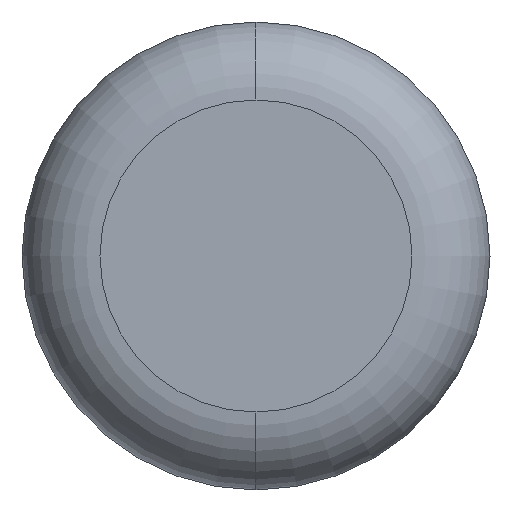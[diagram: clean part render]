
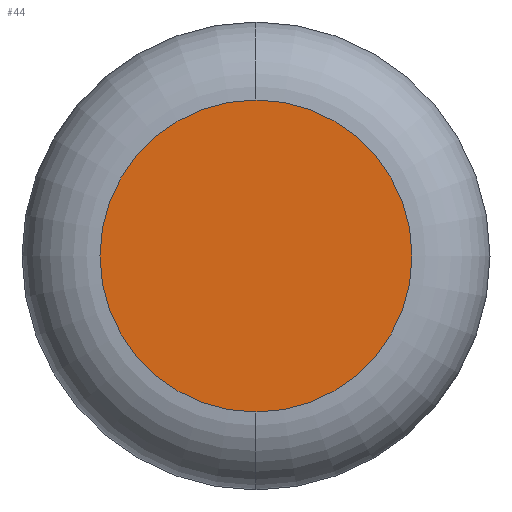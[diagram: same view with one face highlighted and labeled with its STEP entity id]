
A CAD part, left-side view. The second image highlights one B-rep face of the part: STEP entity #44.
In plain terms, the highlighted planar face has unit normal (-1, 0, 0).
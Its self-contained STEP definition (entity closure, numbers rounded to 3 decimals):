
#3 = AXIS2_PLACEMENT_3D ( 'NONE', #92, #206, #72 ) ;
#22 = DIRECTION ( 'NONE',  ( -1., 0., 0. ) ) ;
#27 = CARTESIAN_POINT ( 'NONE',  ( 0., 0., -1. ) ) ;
#35 = VERTEX_POINT ( 'NONE', #27 ) ;
#44 = ADVANCED_FACE ( 'NONE', ( #99 ), #189, .F. ) ;
#60 = DIRECTION ( 'NONE',  ( 0., 0., -1. ) ) ;
#72 = DIRECTION ( 'NONE',  ( 0., 0., -1. ) ) ;
#79 = EDGE_CURVE ( 'NONE', #35, #168, #229, .T. ) ;
#81 = CIRCLE ( 'NONE', #3, 1. ) ;
#86 = AXIS2_PLACEMENT_3D ( 'NONE', #151, #22, #128 ) ;
#92 = CARTESIAN_POINT ( 'NONE',  ( 0., 0., 0. ) ) ;
#96 = DIRECTION ( 'NONE',  ( 1., 0., 0. ) ) ;
#99 = FACE_OUTER_BOUND ( 'NONE', #183, .T. ) ;
#128 = DIRECTION ( 'NONE',  ( 0., 0., -1. ) ) ;
#132 = ORIENTED_EDGE ( 'NONE', *, *, #137, .T. ) ;
#137 = EDGE_CURVE ( 'NONE', #168, #35, #81, .T. ) ;
#149 = ORIENTED_EDGE ( 'NONE', *, *, #79, .T. ) ;
#151 = CARTESIAN_POINT ( 'NONE',  ( 0., 0., 0. ) ) ;
#165 = CARTESIAN_POINT ( 'NONE',  ( 0., 0., 1. ) ) ;
#168 = VERTEX_POINT ( 'NONE', #165 ) ;
#169 = CARTESIAN_POINT ( 'NONE',  ( 0., 0., 0. ) ) ;
#183 = EDGE_LOOP ( 'NONE', ( #149, #132 ) ) ;
#189 = PLANE ( 'NONE',  #214 ) ;
#206 = DIRECTION ( 'NONE',  ( -1., 0., 0. ) ) ;
#214 = AXIS2_PLACEMENT_3D ( 'NONE', #169, #96, #60 ) ;
#229 = CIRCLE ( 'NONE', #86, 1. ) ;
